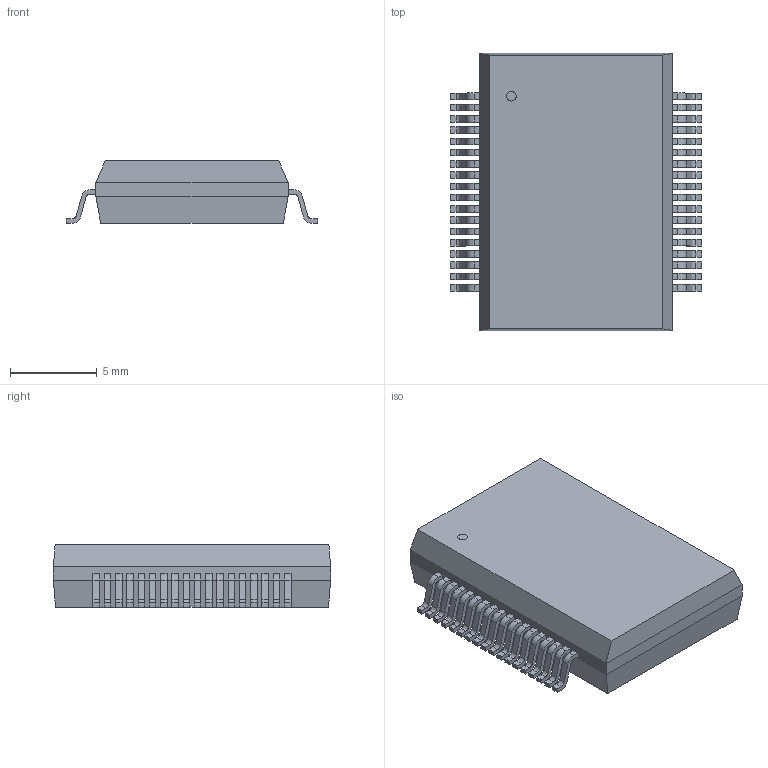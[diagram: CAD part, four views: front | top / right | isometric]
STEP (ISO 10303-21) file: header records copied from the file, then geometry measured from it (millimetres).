
FILE_DESCRIPTION(('STEP AP214'),'1');
FILE_NAME('DKD36-L','2019-02-15T03:24:41',(''),(''),'','','');
FILE_SCHEMA(('AUTOMOTIVE_DESIGN'));
Length unit declared in the file: millimetre
Products named in the file (1): product
Bounding box: 14.5 x 16 x 3.61 mm (x, y, z)
Surface area: 657.8 mm2
Topology: 1 solids, 519 shells, 521 faces, 2651 edges, 2650 vertices
Faces by surface type: plane 376, cylinder 145
Full cylindrical faces by diameter (mm): 0.555 x1
Entity records: 29182 total; most frequent: CARTESIAN_POINT 5823, VERTEX_POINT 5298, DIRECTION 4274, ORIENTED_EDGE 2652, EDGE_CURVE 2650, LINE 2072, VECTOR 2072, AXIS2_PLACEMENT_3D 1101
